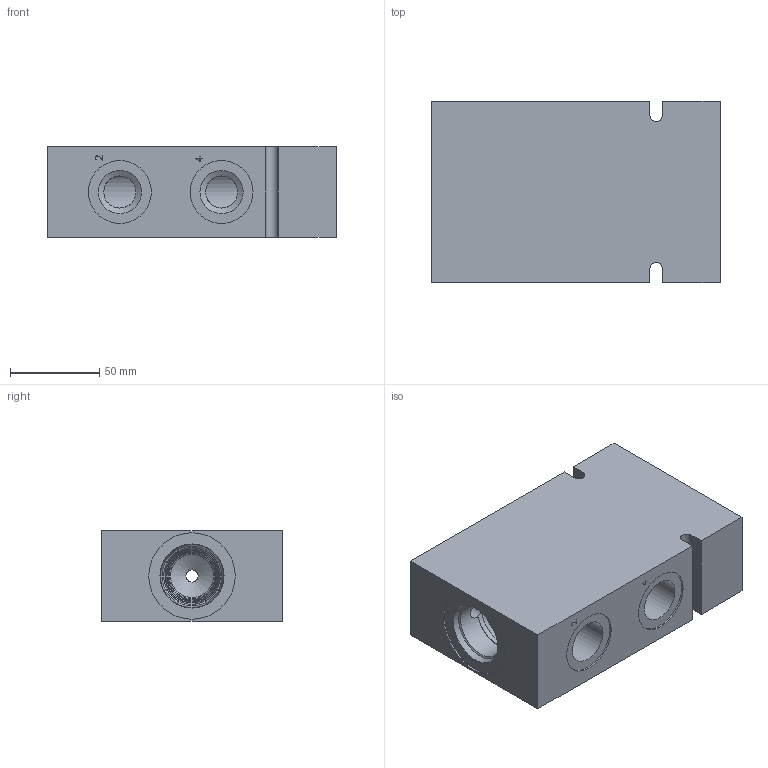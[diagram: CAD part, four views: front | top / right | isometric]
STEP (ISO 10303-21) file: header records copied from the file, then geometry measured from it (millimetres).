
FILE_DESCRIPTION( ( 'Unknown' ), '1' );
FILE_NAME( 'G:/Graphic Design/Graphic Design 2/Data Sheets/Delta Bodies/3_STP/B-DSOD5.stp', 'Unknown', ( 'Unknown' ), ( 'Unknown' ), 'PSStep 16.0.42', 'Unknown', ' ' );
FILE_SCHEMA( ( 'AUTOMOTIVE_DESIGN { 1 0 10303 214 1 1 1 1 }' ) );
Length unit declared in the file: millimetre
Products named in the file (1): 1
Bounding box: 162 x 101.6 x 50.8 mm (x, y, z)
Surface area: 80823.2 mm2 (no closed solid volume)
Topology: 0 solids, 187 shells, 187 faces, 944 edges, 898 vertices
Faces by surface type: plane 140, cylinder 32, cone 14, torus 1
Full cylindrical faces by diameter (mm): 6.8 x2, 8.7 x1, 11 x1, 11.5 x4, 18 x3, 22.22 x2, 24 x1, 24.3 x6, 25.476 x1, 27.051 x1, 28.651 x1, 30.226 x1, 31.806 x1, 35.33 x3, 48.514 x1
Entity records: 10488 total; most frequent: CARTESIAN_POINT 3094, DIRECTION 902, ORIENTED_EDGE 874, EDGE_CURVE 874, VERTEX_POINT 874, B_SPLINE_CURVE_WITH_KNOTS 466, AXIS2_PLACEMENT_3D 306, LINE 290
